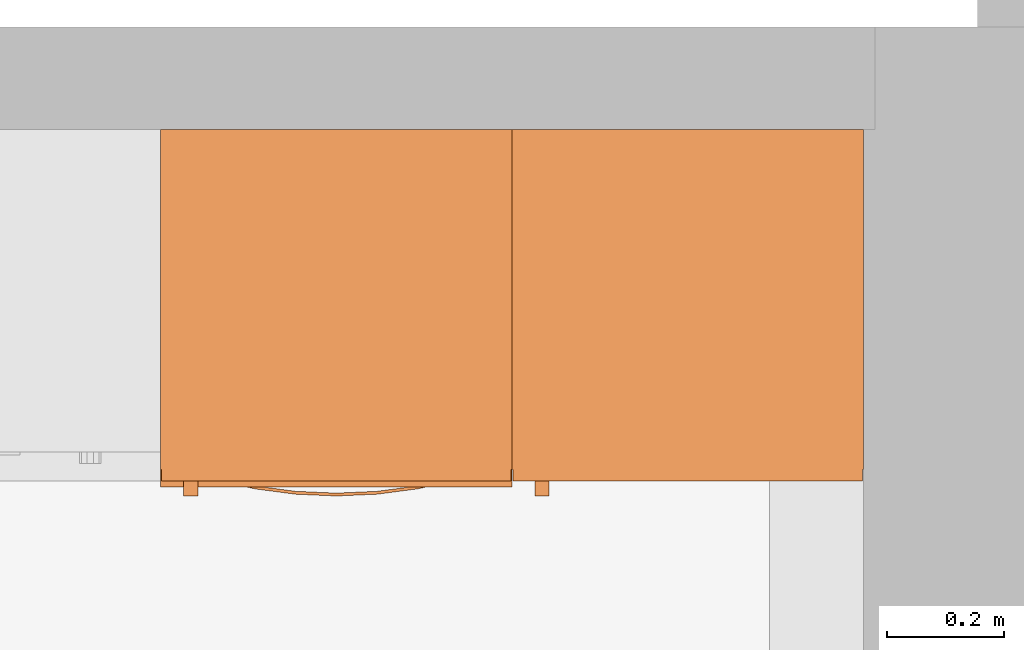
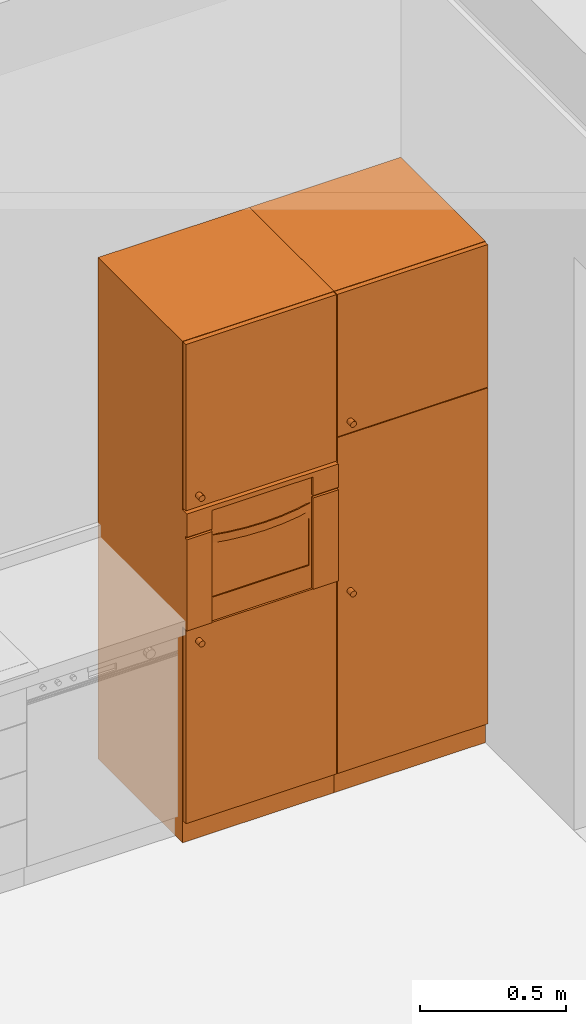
# One storey, part 25 of 28: 2 proxies.
"""IFC4 building model written with IfcOpenShell, lengths in metres."""

import ifcopenshell
import ifcopenshell.guid

model = None  # the IFC model being written
_history = None  # IfcOwnerHistory: only IFC2X3 demands one
_inside = {}  # id of a spatial element -> (the spatial element, [elements in it])
_under = {}  # id of a project, library or spatial element -> (it, [spatial elements below it])
_declared = {}  # id of a project -> (the project, [libraries it declares])
_typed = {}  # id of a type object -> (the type object, [elements of that type])
_made_of = {}  # id of a material, layer set ... -> (it, [elements and type objects made of it])


def new_model(schema):
    """Start an empty IFC model of exactly this schema.

    Asked for "IFC4X3", IfcOpenShell would pick the latest addendum, in which some entities
    have other attributes; the version numbers below select the first issue.
    IFC2X3 requires an IfcOwnerHistory on every rooted entity: one is made here for all.
    """
    global model, _history
    if schema == "IFC4X3":
        model = ifcopenshell.file(schema_version=(4, 3, 0, 0))
    else:
        model = ifcopenshell.file(schema=schema)
    _inside.clear()
    _under.clear()
    _declared.clear()
    _typed.clear()
    _made_of.clear()
    _history = None
    if model.schema == "IFC2X3":
        org = make("IfcOrganization", Name="unknown")
        user = make(
            "IfcPersonAndOrganization",
            ThePerson=make("IfcPerson", FamilyName="unknown"),
            TheOrganization=org,
        )
        app = make(
            "IfcApplication",
            ApplicationDeveloper=org,
            Version="unknown",
            ApplicationFullName="unknown",
            ApplicationIdentifier="unknown",
        )
        _history = make(
            "IfcOwnerHistory",
            OwningUser=user,
            OwningApplication=app,
            ChangeAction="ADDED",
            CreationDate=0,
        )
    return model


def make(cls, **values):
    """One entity of the class cls with the attributes given. An attribute that is None is left unset."""
    return model.create_entity(
        cls, **{name: value for name, value in values.items() if value is not None}
    )


def entity(cls, *values):
    """Any entity or typed value of the class cls, its attributes in the order of the schema. None: left unset."""
    e = model.create_entity(cls)
    for i, value in enumerate(values):
        if value is not None:
            e[i] = value
    return e


def rooted(cls, **values):
    """An entity with a GlobalId (a new one), such as an element, a storey or a relation."""
    return make(cls, GlobalId=ifcopenshell.guid.new(), OwnerHistory=_history, **values)


def si_unit(unit_type, name, prefix=None):
    """IfcSIUnit, for example si_unit("LENGTHUNIT", "METRE", prefix="MILLI")."""
    return make("IfcSIUnit", UnitType=unit_type, Prefix=prefix, Name=name)


def converted_unit(unit_type, name, factor, base, dimensions=None, offset=None):
    """IfcConversionBasedUnit, such as the inch: factor (a typed value) times the base unit."""
    return make(
        "IfcConversionBasedUnit"
        if offset is None
        else "IfcConversionBasedUnitWithOffset",
        ConversionOffset=offset,
        Dimensions=None
        if dimensions is None
        else entity("IfcDimensionalExponents", *dimensions),
        UnitType=unit_type,
        Name=name,
        ConversionFactor=make(
            "IfcMeasureWithUnit", ValueComponent=factor, UnitComponent=base
        ),
    )


def derived_unit(unit_type, elements):
    """IfcDerivedUnit: a product of units, each with its exponent."""
    return make(
        "IfcDerivedUnit",
        Elements=[
            make("IfcDerivedUnitElement", Unit=unit, Exponent=power)
            for unit, power in elements
        ],
        UnitType=unit_type,
    )


def assignment(units):
    """IfcUnitAssignment: the units of a project."""
    return None if units is None else make("IfcUnitAssignment", Units=units)


def point(xyz):
    """IfcCartesianPoint."""
    return None if xyz is None else make("IfcCartesianPoint", Coordinates=xyz)


def direction(xyz):
    """IfcDirection."""
    return None if xyz is None else make("IfcDirection", DirectionRatios=xyz)


def frame(location, z_axis=None, x_axis=None):
    """IfcAxis2Placement3D, a coordinate frame: its origin and axes. An axis left out is left unset."""
    return make(
        "IfcAxis2Placement3D",
        Location=point(location),
        Axis=direction(z_axis),
        RefDirection=direction(x_axis),
    )


def origin_with_axes():
    """The frame at (0, 0, 0) with the z axis (0, 0, 1) and the x axis (1, 0, 0) written out."""
    return frame((0.0, 0.0, 0.0), z_axis=(0.0, 0.0, 1.0), x_axis=(1.0, 0.0, 0.0))


def place(relative_to, where):
    """IfcLocalPlacement: puts the frame where relative to a parent placement (None: the world)."""
    return make(
        "IfcLocalPlacement", PlacementRelTo=relative_to, RelativePlacement=where
    )


def context(
    kind, dimensions, precision=None, world=None, true_north=None, identifier=None
):
    """IfcGeometricRepresentationContext, for example the 3D "Model" context."""
    return make(
        "IfcGeometricRepresentationContext",
        ContextIdentifier=identifier,
        ContextType=kind,
        CoordinateSpaceDimension=dimensions,
        Precision=precision,
        WorldCoordinateSystem=world,
        TrueNorth=true_north,
    )


def subcontext(parent, identifier, kind, view, scale=None):
    """IfcGeometricRepresentationSubContext, for example "Body" below "Model"."""
    return make(
        "IfcGeometricRepresentationSubContext",
        ContextIdentifier=identifier,
        ContextType=kind,
        ParentContext=parent,
        TargetScale=scale,
        TargetView=view,
    )


def project(units=None, contexts=None):
    """IfcProject with its units and contexts."""
    return rooted(
        "IfcProject",
        Name="project",
        RepresentationContexts=contexts,
        UnitsInContext=assignment(units),
    )


def spatial(cls, under=None, at=None, **own):
    """A site, building, storey or space (cls), placed at a placement, below another one or the project."""
    s = rooted(cls, ObjectPlacement=at, **own)
    if under is not None:
        _under.setdefault(under.id(), (under, []))[1].append(s)
    return s


def point_list(points):
    """IfcCartesianPointList2D or 3D."""
    cls = (
        "IfcCartesianPointList2D" if len(points[0]) == 2 else "IfcCartesianPointList3D"
    )
    return make(cls, CoordList=points)


def triangles(points, corners, closed=None, point_numbers=None):
    """IfcTriangulatedFaceSet: each triangle names its three corners, points numbered from 1."""
    return make(
        "IfcTriangulatedFaceSet",
        Coordinates=point_list(points),
        Closed=closed,
        CoordIndex=corners,
        PnIndex=point_numbers,
    )


def shape(context_of_items, identifier, shape_type, items):
    """IfcShapeRepresentation: the items that make up one representation, for example the "Body"."""
    return make(
        "IfcShapeRepresentation",
        ContextOfItems=context_of_items,
        RepresentationIdentifier=identifier,
        RepresentationType=shape_type,
        Items=items,
    )


def made_of(thing, what):
    """Note that an element or type object is made of a material, layer set ...; save() writes the relation."""
    if what is not None:
        _made_of.setdefault(what.id(), (what, []))[1].append(thing)
    return thing


def type_object(cls, material=None, **own):
    """A type object (cls), such as IfcWallType, which elements share."""
    return made_of(rooted(cls, **own), material)


def element(
    cls,
    number,
    at=None,
    inside=None,
    cuts=None,
    type_object=None,
    material=None,
    context=None,
    identifier="Body",
    shape_type=None,
    held_by="IfcProductDefinitionShape",
    body=None,
    shapes=None,
    **own,
):
    """One element of the class cls, such as IfcWall. Its Tag is "e" and its number.

    at: its placement. inside: the storey or other place that contains it. cuts: it is an
    opening in that element (IfcRelVoidsElement). A single representation is given by context,
    identifier, shape_type and body (its items); several are given by shapes. held_by: the class
    of the entity that holds the representations. save() writes the other relations.
    """
    e = rooted(cls, Tag="e%d" % number, ObjectPlacement=at, **own)
    if body is not None:
        shapes = [shape(context, identifier, shape_type, body)]
    if shapes is not None:
        e.Representation = make(held_by, Representations=shapes)
    if inside is not None:
        _inside.setdefault(inside.id(), (inside, []))[1].append(e)
    if cuts is not None:
        rooted(
            "IfcRelVoidsElement", RelatingBuildingElement=cuts, RelatedOpeningElement=e
        )
    if type_object is not None:
        _typed.setdefault(type_object.id(), (type_object, []))[1].append(e)
    return made_of(e, material)


def aggregate(whole, parts):
    """IfcRelAggregates: a whole, such as a stair, and the parts it consists of."""
    return rooted("IfcRelAggregates", RelatingObject=whole, RelatedObjects=parts)


def save(model, path):
    """Write the relations noted so far, then the file.

    IfcRelAggregates (storeys below a building ...), IfcRelContainedInSpatialStructure (elements
    in a storey), IfcRelDefinesByType, IfcRelAssociatesMaterial and IfcRelDeclares: one each for
    every whole, place, type object, material and project.
    """
    for whole, parts in _under.values():
        aggregate(whole, parts)
    for where, things in _inside.values():
        rooted(
            "IfcRelContainedInSpatialStructure",
            RelatedElements=things,
            RelatingStructure=where,
        )
    for kind, things in _typed.values():
        rooted("IfcRelDefinesByType", RelatedObjects=things, RelatingType=kind)
    for what, things in _made_of.values():
        rooted("IfcRelAssociatesMaterial", RelatedObjects=things, RelatingMaterial=what)
    for by, libraries in _declared.values():
        rooted("IfcRelDeclares", RelatingContext=by, RelatedDefinitions=libraries)
    model.write(path)


model = new_model("IFC4")

# Units and contexts
model_context = context("Model", 3, precision=1e-05, world=origin_with_axes(), true_north=direction((-0.526213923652, 0.850352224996)))
body_context = subcontext(model_context, "Body", "Model", "MODEL_VIEW")
ifc_project = project(units=[si_unit("LENGTHUNIT", "METRE"), si_unit("AREAUNIT", "SQUARE_METRE"), si_unit("VOLUMEUNIT", "CUBIC_METRE"), converted_unit("PLANEANGLEUNIT", "DEGREE", entity("IfcPlaneAngleMeasure", 0.0174532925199), si_unit("PLANEANGLEUNIT", "RADIAN"), dimensions=[0, 0, 0, 0, 0, 0, 0]), si_unit("SOLIDANGLEUNIT", "STERADIAN"), converted_unit("TIMEUNIT", "Year", entity("IfcTimeMeasure", 31556926.0), si_unit("TIMEUNIT", "SECOND"), dimensions=[0, 0, 1, 0, 0, 0, 0]), si_unit("MASSUNIT", "GRAM", prefix="KILO"), si_unit("THERMODYNAMICTEMPERATUREUNIT", "DEGREE_CELSIUS"), si_unit("LUMINOUSINTENSITYUNIT", "LUMEN"), si_unit("ENERGYUNIT", "JOULE", prefix="MEGA"), derived_unit("THERMALCONDUCTANCEUNIT", [(si_unit("POWERUNIT", "WATT"), 1), (si_unit("LENGTHUNIT", "METRE"), -1), (si_unit("THERMODYNAMICTEMPERATUREUNIT", "KELVIN"), -1)]), derived_unit("SPECIFICHEATCAPACITYUNIT", [(si_unit("ENERGYUNIT", "JOULE"), 1), (si_unit("MASSUNIT", "GRAM", prefix="KILO"), -1), (si_unit("THERMODYNAMICTEMPERATUREUNIT", "KELVIN"), -1)]), derived_unit("MASSDENSITYUNIT", [(si_unit("MASSUNIT", "GRAM", prefix="KILO"), 1), (si_unit("VOLUMEUNIT", "CUBIC_METRE"), -1)])], contexts=[model_context])

# Site, building, storey, space
site_placement = place(None, origin_with_axes())
site = spatial("IfcSite", under=ifc_project, at=site_placement, Name="Gelände", CompositionType="ELEMENT")
building_placement = place(site_placement, origin_with_axes())
building = spatial("IfcBuilding", under=site, at=building_placement, Name="Haus vom Nikolaus", CompositionType="ELEMENT")
storey_placement = place(building_placement, origin_with_axes())
storey = spatial("IfcBuildingStorey", under=building, at=storey_placement, Name="EG", CompositionType="ELEMENT", Elevation=0.0)
space_placement = place(storey_placement, frame((-3.09538684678, 5.36483190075, 0.0), z_axis=(0.0, 0.0, 1.0), x_axis=(1.0, 0.0, 0.0)))
space = spatial("IfcSpace", under=storey, at=space_placement, Name="EG", CompositionType="ELEMENT")

# Proxies
building_element_proxy_type_1 = type_object("IfcBuildingElementProxyType", Name="Hochschrank Einzeltür 22", PredefinedType="NOTDEFINED")
proxy_1_placement = place(space_placement, frame((14.1603844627, 1.27500017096, 0.2), z_axis=(0.0, 0.0, 1.0), x_axis=(1.0, 0.0, 0.0)))
element("IfcBuildingElementProxy", 1, at=proxy_1_placement, inside=space, type_object=building_element_proxy_type_1, Name="Küche-009", PredefinedType="NOTDEFINED", context=body_context, shape_type="Tessellation", body=[
    triangles([(-0.58, 0.02, 1.51), (-0.02, 0.02, 1.49), (-0.02, 0.02, 1.51), (-0.58, 0.02, 1.49), (-0.02, 0.58, 1.49), (-0.02, 0.58, 1.51), (-0.58, 0.58, 1.51), (-0.58, 0.58, 1.49)], [[1, 2, 3], [1, 4, 2], [3, 5, 6], [3, 2, 5], [7, 3, 6], [7, 1, 3], [7, 4, 1], [7, 8, 4], [8, 2, 4], [8, 5, 2], [6, 8, 7], [6, 5, 8]], closed=True),
    triangles([(-0.6, 0.02, 0.09), (0.0, 0.02, 0.0), (0.0, 0.02, 0.09), (-0.6, 0.02, 0.0), (0.0, 0.6, 0.0), (0.0, 0.6, 0.09), (-0.6, 0.6, 0.09), (-0.6, 0.6, 0.0)], [[1, 2, 3], [1, 4, 2], [3, 5, 6], [3, 2, 5], [7, 3, 6], [7, 1, 3], [7, 4, 1], [7, 8, 4], [8, 2, 4], [8, 5, 2], [6, 8, 7], [6, 5, 8]], closed=True),
    triangles([(-0.02, 0.02, 2.1), (0.0, 0.02, 2.08), (0.0, 0.02, 2.1), (-0.02, 0.02, 2.08), (0.0, 0.6, 2.08), (0.0, 0.6, 2.1), (-0.02, 0.6, 2.1), (-0.58, 0.02, 2.1), (-0.58, 0.6, 2.1), (-0.6, 0.02, 2.1), (-0.6, 0.6, 2.1), (-0.58, 0.02, 2.08), (-0.02, 0.6, 2.08), (-0.58, 0.6, 2.08), (-0.6, 0.6, 2.08), (-0.6, 0.02, 2.08)], [[1, 2, 3], [1, 4, 2], [3, 5, 6], [3, 2, 5], [1, 3, 7], [8, 7, 9], [7, 3, 6], [10, 9, 11], [8, 9, 10], [1, 7, 8], [8, 4, 1], [8, 12, 4], [5, 2, 13], [14, 12, 15], [12, 14, 4], [15, 12, 16], [4, 13, 2], [13, 4, 14], [6, 13, 7], [6, 5, 13], [7, 14, 9], [7, 13, 14], [9, 15, 11], [9, 14, 15], [11, 16, 10], [11, 15, 16], [10, 12, 8], [10, 16, 12]], closed=True),
    triangles([(-0.02, 0.02, 0.11), (0.0, 0.02, 0.09), (0.0, 0.02, 0.11), (-0.02, 0.02, 0.09), (0.0, 0.6, 0.09), (0.0, 0.6, 0.11), (-0.02, 0.6, 0.11), (-0.58, 0.02, 0.11), (-0.58, 0.6, 0.11), (-0.6, 0.02, 0.11), (-0.6, 0.6, 0.11), (-0.58, 0.02, 0.09), (-0.02, 0.6, 0.09), (-0.58, 0.6, 0.09), (-0.6, 0.6, 0.09), (-0.6, 0.02, 0.09)], [[1, 2, 3], [1, 4, 2], [3, 5, 6], [3, 2, 5], [1, 3, 7], [8, 7, 9], [7, 3, 6], [10, 9, 11], [8, 9, 10], [1, 7, 8], [8, 4, 1], [8, 12, 4], [5, 2, 13], [14, 12, 15], [12, 14, 4], [15, 12, 16], [4, 13, 2], [13, 4, 14], [6, 13, 7], [6, 5, 13], [7, 14, 9], [7, 13, 14], [9, 15, 11], [9, 14, 15], [11, 16, 10], [11, 15, 16], [10, 12, 8], [10, 16, 12]], closed=True),
    triangles([(-0.02, 0.02, 2.08), (0.0, 0.02, 0.11), (0.0, 0.02, 2.08), (-0.02, 0.02, 0.11), (0.0, 0.6, 0.11), (0.0, 0.6, 2.08), (-0.02, 0.58, 2.08), (-0.58, 0.58, 2.08), (-0.6, 0.02, 2.08), (-0.58, 0.02, 2.08), (-0.6, 0.6, 2.08), (-0.02, 0.58, 0.11), (-0.6, 0.6, 0.11), (-0.58, 0.58, 0.11), (-0.6, 0.02, 0.11), (-0.58, 0.02, 0.11)], [[1, 2, 3], [1, 4, 2], [3, 5, 6], [3, 2, 5], [1, 3, 7], [8, 9, 10], [8, 6, 11], [9, 8, 11], [7, 3, 6], [8, 7, 6], [7, 4, 1], [7, 12, 4], [5, 2, 12], [13, 5, 12], [12, 2, 4], [13, 12, 14], [15, 13, 14], [15, 14, 16], [6, 13, 11], [6, 5, 13], [11, 15, 9], [11, 13, 15], [9, 16, 10], [9, 15, 16], [10, 14, 8], [10, 16, 14], [8, 12, 7], [8, 14, 12]], closed=True),
    triangles([(-0.58, 0.58, 0.566666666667), (-0.58, 0.02, 0.546666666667), (-0.58, 0.02, 0.566666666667), (-0.58, 0.58, 0.546666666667), (-0.02, 0.02, 0.546666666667), (-0.02, 0.02, 0.566666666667), (-0.02, 0.58, 0.566666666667), (-0.02, 0.58, 0.546666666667)], [[1, 2, 3], [1, 4, 2], [3, 5, 6], [3, 2, 5], [7, 3, 6], [7, 1, 3], [7, 4, 1], [7, 8, 4], [8, 2, 4], [8, 5, 2], [6, 8, 7], [6, 5, 8]], closed=True),
    triangles([(-0.58, 0.58, 1.04333333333), (-0.58, 0.02, 1.02333333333), (-0.58, 0.02, 1.04333333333), (-0.58, 0.58, 1.02333333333), (-0.02, 0.02, 1.02333333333), (-0.02, 0.02, 1.04333333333), (-0.02, 0.58, 1.04333333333), (-0.02, 0.58, 1.02333333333)], [[1, 2, 3], [1, 4, 2], [3, 5, 6], [3, 2, 5], [7, 3, 6], [7, 1, 3], [7, 4, 1], [7, 8, 4], [8, 2, 4], [8, 5, 2], [6, 8, 7], [6, 5, 8]], closed=True),
    triangles([(-0.5985, 0.0, 0.0915), (-0.0015, 0.02, 0.0915), (-0.0015, 0.0, 0.0915), (-0.5985, 0.02, 0.0915), (-0.0015, 0.02, 1.4985), (-0.0015, 0.0, 1.4985), (-0.5985, 0.0, 1.4985), (-0.5985, 0.02, 1.4985)], [[1, 2, 3], [1, 4, 2], [3, 5, 6], [3, 2, 5], [7, 3, 6], [7, 1, 3], [7, 4, 1], [7, 8, 4], [8, 2, 4], [8, 5, 2], [6, 8, 7], [6, 5, 8]], closed=True),
    triangles([(-0.538107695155, 0.0, 0.8475), (-0.5425, 0.0, 0.851892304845), (-0.540014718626, 0.0, 0.849985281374), (-0.556985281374, 0.0, 0.833014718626), (-0.551605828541, 0.0, 0.829908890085), (-0.5545, 0.0, 0.831107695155), (-0.556985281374, 0.0, 0.849985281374), (-0.560091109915, 0.0, 0.844605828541), (-0.558892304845, 0.0, 0.8475), (-0.5485, 0.0, 0.8535), (-0.551605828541, 0.0, 0.853091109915), (-0.5545, 0.0, 0.851892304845), (-0.545394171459, 0.0, 0.853091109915), (-0.536908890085, 0.0, 0.838394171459), (-0.5365, 0.0, 0.8415), (-0.536908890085, 0.0, 0.844605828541), (-0.540014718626, 0.0, 0.833014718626), (-0.538107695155, 0.0, 0.8355), (-0.5485, 0.0, 0.8295), (-0.5425, 0.0, 0.831107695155), (-0.545394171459, 0.0, 0.829908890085), (-0.5605, 0.0, 0.8415), (-0.560091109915, 0.0, 0.838394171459), (-0.558892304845, 0.0, 0.8355), (-0.560091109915, -0.025, 0.838394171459), (-0.5605, -0.025, 0.8415), (-0.560091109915, -0.025, 0.844605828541), (-0.558892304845, -0.025, 0.8475), (-0.556985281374, -0.025, 0.849985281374), (-0.5545, -0.025, 0.851892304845), (-0.551605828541, -0.025, 0.853091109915), (-0.5485, -0.025, 0.8535), (-0.545394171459, -0.025, 0.853091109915), (-0.5425, -0.025, 0.851892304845), (-0.540014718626, -0.025, 0.849985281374), (-0.538107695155, -0.025, 0.8475), (-0.536908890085, -0.025, 0.844605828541), (-0.5365, -0.025, 0.8415), (-0.536908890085, -0.025, 0.838394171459), (-0.538107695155, -0.025, 0.8355), (-0.540014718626, -0.025, 0.833014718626), (-0.5425, -0.025, 0.831107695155), (-0.545394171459, -0.025, 0.829908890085), (-0.5485, -0.025, 0.8295), (-0.551605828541, -0.025, 0.829908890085), (-0.5545, -0.025, 0.831107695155), (-0.556985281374, -0.025, 0.833014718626), (-0.558892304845, -0.025, 0.8355)], [[1, 2, 3], [4, 5, 6], [7, 8, 9], [10, 7, 11], [11, 7, 12], [13, 7, 10], [14, 13, 15], [2, 15, 13], [16, 2, 1], [15, 2, 16], [17, 13, 14], [5, 4, 17], [17, 4, 13], [17, 14, 18], [5, 17, 19], [19, 20, 21], [13, 4, 7], [20, 19, 17], [7, 4, 8], [8, 4, 22], [22, 4, 23], [24, 23, 4], [22, 25, 26], [25, 22, 23], [27, 22, 26], [27, 8, 22], [28, 8, 27], [28, 9, 8], [29, 9, 28], [29, 7, 9], [30, 7, 29], [30, 12, 7], [31, 12, 30], [31, 11, 12], [32, 11, 31], [32, 10, 11], [33, 10, 32], [33, 13, 10], [34, 13, 33], [34, 2, 13], [35, 2, 34], [35, 3, 2], [36, 3, 35], [36, 1, 3], [37, 1, 36], [37, 16, 1], [38, 16, 37], [38, 15, 16], [39, 15, 38], [39, 14, 15], [40, 14, 39], [40, 18, 14], [41, 18, 40], [41, 17, 18], [42, 17, 41], [42, 20, 17], [43, 20, 42], [43, 21, 20], [44, 21, 43], [44, 19, 21], [45, 19, 44], [45, 5, 19], [46, 5, 45], [46, 6, 5], [47, 6, 46], [47, 4, 6], [48, 4, 47], [48, 24, 4], [25, 24, 48], [25, 23, 24], [35, 41, 38], [45, 47, 46], [26, 48, 47], [44, 47, 45], [41, 44, 43], [41, 43, 42], [44, 41, 47], [40, 38, 41], [35, 37, 36], [38, 40, 39], [37, 35, 38], [41, 35, 47], [33, 35, 34], [32, 35, 33], [29, 35, 32], [29, 32, 31], [35, 29, 47], [29, 31, 30], [26, 29, 27], [27, 29, 28], [29, 26, 47], [48, 26, 25]], closed=True),
    triangles([(-0.5985, 0.0, 1.5015), (-0.0015, 0.02, 1.5015), (-0.0015, 0.0, 1.5015), (-0.5985, 0.02, 1.5015), (-0.0015, 0.02, 2.0985), (-0.0015, 0.0, 2.0985), (-0.5985, 0.0, 2.0985), (-0.5985, 0.02, 2.0985)], [[1, 2, 3], [1, 4, 2], [3, 5, 6], [3, 2, 5], [7, 3, 6], [7, 1, 3], [7, 4, 1], [7, 8, 4], [8, 2, 4], [8, 5, 2], [6, 8, 7], [6, 5, 8]], closed=True),
    triangles([(-0.536908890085, 0.0, 1.55460582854), (-0.540014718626, 0.0, 1.55998528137), (-0.538107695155, 0.0, 1.5575), (-0.551605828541, 0.0, 1.56309110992), (-0.558892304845, 0.0, 1.5575), (-0.556985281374, 0.0, 1.55998528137), (-0.5545, 0.0, 1.54110769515), (-0.560091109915, 0.0, 1.55460582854), (-0.5545, 0.0, 1.56189230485), (-0.540014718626, 0.0, 1.54301471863), (-0.538107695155, 0.0, 1.5455), (-0.545394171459, 0.0, 1.56309110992), (-0.5485, 0.0, 1.5635), (-0.5365, 0.0, 1.5515), (-0.5425, 0.0, 1.56189230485), (-0.5485, 0.0, 1.5395), (-0.536908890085, 0.0, 1.54839417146), (-0.5425, 0.0, 1.54110769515), (-0.556985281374, 0.0, 1.54301471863), (-0.545394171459, 0.0, 1.53990889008), (-0.551605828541, 0.0, 1.53990889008), (-0.5605, 0.0, 1.5515), (-0.558892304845, 0.0, 1.5455), (-0.560091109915, 0.0, 1.54839417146), (-0.5605, -0.025, 1.5515), (-0.560091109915, -0.025, 1.54839417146), (-0.560091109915, -0.025, 1.55460582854), (-0.558892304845, -0.025, 1.5575), (-0.556985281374, -0.025, 1.55998528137), (-0.5545, -0.025, 1.56189230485), (-0.551605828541, -0.025, 1.56309110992), (-0.5485, -0.025, 1.5635), (-0.545394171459, -0.025, 1.56309110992), (-0.5425, -0.025, 1.56189230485), (-0.540014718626, -0.025, 1.55998528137), (-0.538107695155, -0.025, 1.5575), (-0.536908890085, -0.025, 1.55460582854), (-0.5365, -0.025, 1.5515), (-0.536908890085, -0.025, 1.54839417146), (-0.538107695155, -0.025, 1.5455), (-0.540014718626, -0.025, 1.54301471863), (-0.5425, -0.025, 1.54110769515), (-0.545394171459, -0.025, 1.53990889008), (-0.5485, -0.025, 1.5395), (-0.551605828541, -0.025, 1.53990889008), (-0.5545, -0.025, 1.54110769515), (-0.556985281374, -0.025, 1.54301471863), (-0.558892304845, -0.025, 1.5455)], [[1, 2, 3], [4, 5, 6], [4, 7, 8], [4, 6, 9], [5, 4, 8], [10, 7, 11], [12, 4, 13], [11, 1, 14], [2, 1, 12], [2, 12, 15], [1, 11, 12], [7, 10, 16], [11, 14, 17], [11, 7, 12], [12, 7, 4], [16, 10, 18], [19, 8, 7], [16, 18, 20], [7, 16, 21], [8, 19, 22], [23, 22, 19], [22, 23, 24], [25, 24, 26], [25, 22, 24], [27, 22, 25], [27, 8, 22], [28, 8, 27], [28, 5, 8], [29, 5, 28], [29, 6, 5], [30, 6, 29], [30, 9, 6], [31, 9, 30], [31, 4, 9], [32, 4, 31], [32, 13, 4], [33, 13, 32], [33, 12, 13], [34, 12, 33], [34, 15, 12], [35, 15, 34], [35, 2, 15], [36, 2, 35], [36, 3, 2], [37, 3, 36], [37, 1, 3], [38, 1, 37], [38, 14, 1], [39, 14, 38], [39, 17, 14], [40, 17, 39], [40, 11, 17], [41, 11, 40], [41, 10, 11], [42, 10, 41], [42, 18, 10], [43, 18, 42], [43, 20, 18], [44, 20, 43], [44, 16, 20], [45, 16, 44], [45, 21, 16], [46, 21, 45], [46, 7, 21], [47, 7, 46], [47, 19, 7], [48, 19, 47], [48, 23, 19], [26, 23, 48], [26, 24, 23], [38, 40, 39], [45, 47, 46], [47, 26, 48], [47, 45, 26], [43, 45, 44], [41, 43, 42], [43, 41, 45], [45, 41, 26], [36, 38, 37], [31, 40, 32], [38, 36, 40], [32, 36, 35], [36, 32, 40], [32, 34, 33], [34, 32, 35], [40, 31, 41], [27, 31, 30], [27, 41, 31], [27, 30, 29], [27, 29, 28], [25, 41, 27], [41, 25, 26]], closed=True),
])
building_element_proxy_type_2 = type_object("IfcBuildingElementProxyType", Name="Hochschrank Einzeltür mit Backofen 22", PredefinedType="NOTDEFINED")
proxy_2_placement = place(space_placement, frame((13.5603844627, 1.27500017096, 0.2), z_axis=(0.0, 0.0, 1.0), x_axis=(1.0, 0.0, 0.0)))
element("IfcBuildingElementProxy", 2, at=proxy_2_placement, inside=space, type_object=building_element_proxy_type_2, Name="Küche-008", PredefinedType="NOTDEFINED", context=body_context, shape_type="Tessellation", body=[
    triangles([(-0.58, 0.02, 1.41), (-0.02, 0.02, 1.39), (-0.02, 0.02, 1.41), (-0.58, 0.02, 1.39), (-0.02, 0.58, 1.39), (-0.02, 0.58, 1.41), (-0.58, 0.58, 1.41), (-0.58, 0.58, 1.39)], [[1, 2, 3], [1, 4, 2], [3, 5, 6], [3, 2, 5], [7, 3, 6], [7, 1, 3], [7, 4, 1], [7, 8, 4], [8, 2, 4], [8, 5, 2], [6, 8, 7], [6, 5, 8]], closed=True),
    triangles([(-0.58, 0.02, 0.91), (-0.02, 0.02, 0.89), (-0.02, 0.02, 0.91), (-0.58, 0.02, 0.89), (-0.02, 0.58, 0.89), (-0.02, 0.58, 0.91), (-0.58, 0.58, 0.91), (-0.58, 0.58, 0.89)], [[1, 2, 3], [1, 4, 2], [3, 5, 6], [3, 2, 5], [7, 3, 6], [7, 1, 3], [7, 4, 1], [7, 8, 4], [8, 2, 4], [8, 5, 2], [6, 8, 7], [6, 5, 8]], closed=True),
    triangles([(-0.6, 0.02, 0.09), (0.0, 0.02, 0.0), (0.0, 0.02, 0.09), (-0.6, 0.02, 0.0), (0.0, 0.6, 0.0), (0.0, 0.6, 0.09), (-0.6, 0.6, 0.09), (-0.6, 0.6, 0.0)], [[1, 2, 3], [1, 4, 2], [3, 5, 6], [3, 2, 5], [7, 3, 6], [7, 1, 3], [7, 4, 1], [7, 8, 4], [8, 2, 4], [8, 5, 2], [6, 8, 7], [6, 5, 8]], closed=True),
    triangles([(-0.02, 0.02, 2.1), (0.0, 0.02, 2.08), (0.0, 0.02, 2.1), (-0.02, 0.02, 2.08), (0.0, 0.6, 2.08), (0.0, 0.6, 2.1), (-0.02, 0.6, 2.1), (-0.58, 0.02, 2.1), (-0.58, 0.6, 2.1), (-0.6, 0.02, 2.1), (-0.6, 0.6, 2.1), (-0.58, 0.02, 2.08), (-0.02, 0.6, 2.08), (-0.58, 0.6, 2.08), (-0.6, 0.6, 2.08), (-0.6, 0.02, 2.08)], [[1, 2, 3], [1, 4, 2], [3, 5, 6], [3, 2, 5], [1, 3, 7], [8, 7, 9], [7, 3, 6], [10, 9, 11], [8, 9, 10], [1, 7, 8], [8, 4, 1], [8, 12, 4], [5, 2, 13], [14, 12, 15], [12, 14, 4], [15, 12, 16], [4, 13, 2], [13, 4, 14], [6, 13, 7], [6, 5, 13], [7, 14, 9], [7, 13, 14], [9, 15, 11], [9, 14, 15], [11, 16, 10], [11, 15, 16], [10, 12, 8], [10, 16, 12]], closed=True),
    triangles([(-0.02, 0.02, 0.11), (0.0, 0.02, 0.09), (0.0, 0.02, 0.11), (-0.02, 0.02, 0.09), (0.0, 0.6, 0.09), (0.0, 0.6, 0.11), (-0.02, 0.6, 0.11), (-0.58, 0.02, 0.11), (-0.58, 0.6, 0.11), (-0.6, 0.02, 0.11), (-0.6, 0.6, 0.11), (-0.58, 0.02, 0.09), (-0.02, 0.6, 0.09), (-0.58, 0.6, 0.09), (-0.6, 0.6, 0.09), (-0.6, 0.02, 0.09)], [[1, 2, 3], [1, 4, 2], [3, 5, 6], [3, 2, 5], [1, 3, 7], [8, 7, 9], [7, 3, 6], [10, 9, 11], [8, 9, 10], [1, 7, 8], [8, 4, 1], [8, 12, 4], [5, 2, 13], [14, 12, 15], [12, 14, 4], [15, 12, 16], [4, 13, 2], [13, 4, 14], [6, 13, 7], [6, 5, 13], [7, 14, 9], [7, 13, 14], [9, 15, 11], [9, 14, 15], [11, 16, 10], [11, 15, 16], [10, 12, 8], [10, 16, 12]], closed=True),
    triangles([(-0.02, 0.02, 2.08), (0.0, 0.02, 0.11), (0.0, 0.02, 2.08), (-0.02, 0.02, 0.11), (0.0, 0.6, 0.11), (0.0, 0.6, 2.08), (-0.02, 0.58, 2.08), (-0.58, 0.58, 2.08), (-0.6, 0.02, 2.08), (-0.58, 0.02, 2.08), (-0.6, 0.6, 2.08), (-0.02, 0.58, 0.11), (-0.6, 0.6, 0.11), (-0.58, 0.58, 0.11), (-0.6, 0.02, 0.11), (-0.58, 0.02, 0.11)], [[1, 2, 3], [1, 4, 2], [3, 5, 6], [3, 2, 5], [1, 3, 7], [8, 9, 10], [8, 6, 11], [9, 8, 11], [7, 3, 6], [8, 7, 6], [7, 4, 1], [7, 12, 4], [5, 2, 12], [13, 5, 12], [12, 2, 4], [13, 12, 14], [15, 13, 14], [15, 14, 16], [6, 13, 11], [6, 5, 13], [11, 15, 9], [11, 13, 15], [9, 16, 10], [9, 15, 16], [10, 14, 8], [10, 16, 14], [8, 12, 7], [8, 14, 12]], closed=True),
    triangles([(-0.58, 0.58, 0.366666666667), (-0.58, 0.02, 0.346666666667), (-0.58, 0.02, 0.366666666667), (-0.58, 0.58, 0.346666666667), (-0.02, 0.02, 0.346666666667), (-0.02, 0.02, 0.366666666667), (-0.02, 0.58, 0.366666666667), (-0.02, 0.58, 0.346666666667)], [[1, 2, 3], [1, 4, 2], [3, 5, 6], [3, 2, 5], [7, 3, 6], [7, 1, 3], [7, 4, 1], [7, 8, 4], [8, 2, 4], [8, 5, 2], [6, 8, 7], [6, 5, 8]], closed=True),
    triangles([(-0.58, 0.58, 0.643333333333), (-0.58, 0.02, 0.623333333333), (-0.58, 0.02, 0.643333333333), (-0.58, 0.58, 0.623333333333), (-0.02, 0.02, 0.623333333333), (-0.02, 0.02, 0.643333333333), (-0.02, 0.58, 0.643333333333), (-0.02, 0.58, 0.623333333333)], [[1, 2, 3], [1, 4, 2], [3, 5, 6], [3, 2, 5], [7, 3, 6], [7, 1, 3], [7, 4, 1], [7, 8, 4], [8, 2, 4], [8, 5, 2], [6, 8, 7], [6, 5, 8]], closed=True),
    triangles([(-0.5985, 0.0, 0.0915), (-0.0015, 0.02, 0.0915), (-0.0015, 0.0, 0.0915), (-0.5985, 0.02, 0.0915), (-0.0015, 0.02, 0.8985), (-0.0015, 0.0, 0.8985), (-0.5985, 0.0, 0.8985), (-0.5985, 0.02, 0.8985)], [[1, 2, 3], [1, 4, 2], [3, 5, 6], [3, 2, 5], [7, 3, 6], [7, 1, 3], [7, 4, 1], [7, 8, 4], [8, 2, 4], [8, 5, 2], [6, 8, 7], [6, 5, 8]], closed=True),
    triangles([(-0.538107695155, 0.0, 0.8475), (-0.5425, 0.0, 0.851892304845), (-0.540014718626, 0.0, 0.849985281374), (-0.556985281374, 0.0, 0.833014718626), (-0.551605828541, 0.0, 0.829908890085), (-0.5545, 0.0, 0.831107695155), (-0.556985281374, 0.0, 0.849985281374), (-0.560091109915, 0.0, 0.844605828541), (-0.558892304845, 0.0, 0.8475), (-0.5485, 0.0, 0.8535), (-0.551605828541, 0.0, 0.853091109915), (-0.5545, 0.0, 0.851892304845), (-0.545394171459, 0.0, 0.853091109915), (-0.536908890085, 0.0, 0.838394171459), (-0.5365, 0.0, 0.8415), (-0.536908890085, 0.0, 0.844605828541), (-0.540014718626, 0.0, 0.833014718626), (-0.538107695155, 0.0, 0.8355), (-0.5485, 0.0, 0.8295), (-0.5425, 0.0, 0.831107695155), (-0.545394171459, 0.0, 0.829908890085), (-0.5605, 0.0, 0.8415), (-0.560091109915, 0.0, 0.838394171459), (-0.558892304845, 0.0, 0.8355), (-0.560091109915, -0.025, 0.838394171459), (-0.5605, -0.025, 0.8415), (-0.560091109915, -0.025, 0.844605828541), (-0.558892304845, -0.025, 0.8475), (-0.556985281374, -0.025, 0.849985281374), (-0.5545, -0.025, 0.851892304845), (-0.551605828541, -0.025, 0.853091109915), (-0.5485, -0.025, 0.8535), (-0.545394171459, -0.025, 0.853091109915), (-0.5425, -0.025, 0.851892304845), (-0.540014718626, -0.025, 0.849985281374), (-0.538107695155, -0.025, 0.8475), (-0.536908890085, -0.025, 0.844605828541), (-0.5365, -0.025, 0.8415), (-0.536908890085, -0.025, 0.838394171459), (-0.538107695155, -0.025, 0.8355), (-0.540014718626, -0.025, 0.833014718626), (-0.5425, -0.025, 0.831107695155), (-0.545394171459, -0.025, 0.829908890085), (-0.5485, -0.025, 0.8295), (-0.551605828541, -0.025, 0.829908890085), (-0.5545, -0.025, 0.831107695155), (-0.556985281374, -0.025, 0.833014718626), (-0.558892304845, -0.025, 0.8355)], [[1, 2, 3], [4, 5, 6], [7, 8, 9], [10, 7, 11], [11, 7, 12], [13, 7, 10], [14, 13, 15], [2, 15, 13], [16, 2, 1], [15, 2, 16], [17, 13, 14], [5, 4, 17], [17, 4, 13], [17, 14, 18], [5, 17, 19], [19, 20, 21], [13, 4, 7], [20, 19, 17], [7, 4, 8], [8, 4, 22], [22, 4, 23], [24, 23, 4], [22, 25, 26], [25, 22, 23], [27, 22, 26], [27, 8, 22], [28, 8, 27], [28, 9, 8], [29, 9, 28], [29, 7, 9], [30, 7, 29], [30, 12, 7], [31, 12, 30], [31, 11, 12], [32, 11, 31], [32, 10, 11], [33, 10, 32], [33, 13, 10], [34, 13, 33], [34, 2, 13], [35, 2, 34], [35, 3, 2], [36, 3, 35], [36, 1, 3], [37, 1, 36], [37, 16, 1], [38, 16, 37], [38, 15, 16], [39, 15, 38], [39, 14, 15], [40, 14, 39], [40, 18, 14], [41, 18, 40], [41, 17, 18], [42, 17, 41], [42, 20, 17], [43, 20, 42], [43, 21, 20], [44, 21, 43], [44, 19, 21], [45, 19, 44], [45, 5, 19], [46, 5, 45], [46, 6, 5], [47, 6, 46], [47, 4, 6], [48, 4, 47], [48, 24, 4], [25, 24, 48], [25, 23, 24], [35, 41, 38], [45, 47, 46], [26, 48, 47], [44, 47, 45], [41, 44, 43], [41, 43, 42], [44, 41, 47], [40, 38, 41], [35, 37, 36], [38, 40, 39], [37, 35, 38], [41, 35, 47], [33, 35, 34], [32, 35, 33], [29, 35, 32], [29, 32, 31], [35, 29, 47], [29, 31, 30], [26, 29, 27], [27, 29, 28], [29, 26, 47], [48, 26, 25]], closed=True),
    triangles([(-0.5985, 0.0, 1.4015), (-0.0015, 0.02, 1.4015), (-0.0015, 0.0, 1.4015), (-0.5985, 0.02, 1.4015), (-0.0015, 0.02, 2.0985), (-0.0015, 0.0, 2.0985), (-0.5985, 0.0, 2.0985), (-0.5985, 0.02, 2.0985)], [[1, 2, 3], [1, 4, 2], [3, 5, 6], [3, 2, 5], [7, 3, 6], [7, 1, 3], [7, 4, 1], [7, 8, 4], [8, 2, 4], [8, 5, 2], [6, 8, 7], [6, 5, 8]], closed=True),
    triangles([(-0.536908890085, 0.0, 1.45460582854), (-0.540014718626, 0.0, 1.45998528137), (-0.538107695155, 0.0, 1.4575), (-0.556985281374, 0.0, 1.45998528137), (-0.5605, 0.0, 1.4515), (-0.558892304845, 0.0, 1.4575), (-0.560091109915, 0.0, 1.45460582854), (-0.5485, 0.0, 1.4635), (-0.551605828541, 0.0, 1.46309110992), (-0.5545, 0.0, 1.46189230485), (-0.5425, 0.0, 1.46189230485), (-0.545394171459, 0.0, 1.46309110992), (-0.538107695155, 0.0, 1.4455), (-0.536908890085, 0.0, 1.44839417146), (-0.5365, 0.0, 1.4515), (-0.5545, 0.0, 1.44110769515), (-0.5485, 0.0, 1.4395), (-0.551605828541, 0.0, 1.43990889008), (-0.540014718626, 0.0, 1.44301471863), (-0.545394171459, 0.0, 1.43990889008), (-0.5425, 0.0, 1.44110769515), (-0.556985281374, 0.0, 1.44301471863), (-0.560091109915, 0.0, 1.44839417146), (-0.558892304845, 0.0, 1.4455), (-0.5605, -0.025, 1.4515), (-0.560091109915, -0.025, 1.44839417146), (-0.560091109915, -0.025, 1.45460582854), (-0.558892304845, -0.025, 1.4575), (-0.556985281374, -0.025, 1.45998528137), (-0.5545, -0.025, 1.46189230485), (-0.551605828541, -0.025, 1.46309110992), (-0.5485, -0.025, 1.4635), (-0.545394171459, -0.025, 1.46309110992), (-0.5425, -0.025, 1.46189230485), (-0.540014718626, -0.025, 1.45998528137), (-0.538107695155, -0.025, 1.4575), (-0.536908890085, -0.025, 1.45460582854), (-0.5365, -0.025, 1.4515), (-0.536908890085, -0.025, 1.44839417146), (-0.538107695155, -0.025, 1.4455), (-0.540014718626, -0.025, 1.44301471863), (-0.5425, -0.025, 1.44110769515), (-0.545394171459, -0.025, 1.43990889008), (-0.5485, -0.025, 1.4395), (-0.551605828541, -0.025, 1.43990889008), (-0.5545, -0.025, 1.44110769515), (-0.556985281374, -0.025, 1.44301471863), (-0.558892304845, -0.025, 1.4455)], [[1, 2, 3], [4, 5, 6], [6, 5, 7], [8, 4, 9], [9, 4, 10], [11, 4, 8], [11, 8, 12], [4, 11, 5], [2, 1, 11], [13, 11, 1], [13, 1, 14], [14, 1, 15], [11, 13, 5], [16, 17, 18], [17, 13, 19], [20, 19, 21], [17, 16, 13], [17, 19, 20], [13, 16, 5], [22, 5, 16], [5, 22, 23], [24, 23, 22], [25, 23, 26], [25, 5, 23], [27, 5, 25], [27, 7, 5], [28, 7, 27], [28, 6, 7], [29, 6, 28], [29, 4, 6], [30, 4, 29], [30, 10, 4], [31, 10, 30], [31, 9, 10], [32, 9, 31], [32, 8, 9], [33, 8, 32], [33, 12, 8], [34, 12, 33], [34, 11, 12], [35, 11, 34], [35, 2, 11], [36, 2, 35], [36, 3, 2], [37, 3, 36], [37, 1, 3], [38, 1, 37], [38, 15, 1], [39, 15, 38], [39, 14, 15], [40, 14, 39], [40, 13, 14], [41, 13, 40], [41, 19, 13], [42, 19, 41], [42, 21, 19], [43, 21, 42], [43, 20, 21], [44, 20, 43], [44, 17, 20], [45, 17, 44], [45, 18, 17], [46, 18, 45], [46, 16, 18], [47, 16, 46], [47, 22, 16], [48, 22, 47], [48, 24, 22], [26, 24, 48], [26, 23, 24], [38, 40, 39], [45, 47, 46], [47, 26, 48], [47, 45, 26], [43, 45, 44], [41, 43, 42], [43, 41, 45], [45, 41, 26], [36, 38, 37], [31, 40, 32], [38, 36, 40], [32, 36, 35], [36, 32, 40], [32, 34, 33], [34, 32, 35], [40, 31, 41], [27, 31, 30], [27, 41, 31], [27, 30, 29], [27, 29, 28], [25, 41, 27], [41, 25, 26]], closed=True),
    triangles([(-0.6, 0.0, 0.905), (0.0, 0.02, 0.905), (0.0, 0.0, 0.905), (-0.6, 0.02, 0.905), (0.0, 0.0, 1.395), (0.0, 0.02, 1.395), (-0.11, 0.0, 1.003), (-0.11, 0.0, 1.199), (-0.6, 0.0, 1.395), (-0.49, 0.0, 1.199), (-0.49, 0.0, 1.003), (-0.6, 0.02, 1.395), (-0.11, 0.02, 1.199), (-0.11, 0.02, 1.003), (-0.49, 0.02, 1.199), (-0.49, 0.02, 1.003)], [[1, 2, 3], [1, 4, 2], [2, 5, 3], [5, 2, 6], [7, 1, 3], [8, 3, 5], [8, 9, 10], [10, 1, 11], [7, 11, 1], [1, 10, 9], [3, 8, 7], [9, 8, 5], [9, 4, 1], [9, 12, 4], [13, 2, 14], [4, 14, 2], [13, 12, 6], [2, 13, 6], [15, 4, 12], [13, 15, 12], [16, 14, 4], [15, 16, 4], [5, 12, 9], [5, 6, 12], [7, 16, 11], [7, 14, 16], [11, 15, 10], [11, 16, 15], [10, 13, 8], [10, 15, 13], [8, 14, 7], [8, 13, 14]], closed=True),
    triangles([(-0.49, 0.005, 1.003), (-0.11, 0.015, 1.003), (-0.11, 0.005, 1.003), (-0.49, 0.015, 1.003), (-0.11, 0.015, 1.199), (-0.11, 0.005, 1.199), (-0.49, 0.005, 1.199), (-0.49, 0.015, 1.199)], [[1, 2, 3], [1, 4, 2], [3, 5, 6], [3, 2, 5], [7, 3, 6], [7, 1, 3], [7, 4, 1], [7, 8, 4], [8, 2, 4], [8, 5, 2], [6, 8, 7], [6, 5, 8]], closed=True),
    triangles([(-0.1, -0.01, 1.287), (0.0, -0.01, 0.905), (0.0, -0.01, 1.287), (-0.1, -0.01, 0.905), (0.0, 0.0, 0.905), (0.0, 0.0, 1.287), (-0.1, 0.0, 1.287), (-0.1, 0.0, 0.905)], [[1, 2, 3], [1, 4, 2], [3, 5, 6], [3, 2, 5], [7, 3, 6], [7, 1, 3], [7, 4, 1], [7, 8, 4], [8, 2, 4], [8, 5, 2], [6, 8, 7], [6, 5, 8]], closed=True),
    triangles([(-0.6, -0.01, 1.287), (-0.5, -0.01, 0.905), (-0.5, -0.01, 1.287), (-0.6, -0.01, 0.905), (-0.5, 0.0, 0.905), (-0.5, 0.0, 1.287), (-0.6, 0.0, 1.287), (-0.6, 0.0, 0.905)], [[1, 2, 3], [1, 4, 2], [3, 5, 6], [3, 2, 5], [7, 3, 6], [7, 1, 3], [7, 4, 1], [7, 8, 4], [8, 2, 4], [8, 5, 2], [6, 8, 7], [6, 5, 8]], closed=True),
    triangles([(-0.1, -0.01, 1.297), (0.0, 0.0, 1.297), (0.0, -0.01, 1.297), (-0.1, 0.0, 1.297), (0.0, 0.0, 1.395), (0.0, -0.01, 1.395), (-0.1, -0.01, 1.3754), (-0.6, -0.01, 1.395), (-0.5, -0.01, 1.3754), (-0.6, -0.01, 1.297), (-0.5, -0.01, 1.297), (-0.1, 0.0, 1.3754), (-0.6, 0.0, 1.395), (-0.5, 0.0, 1.3754), (-0.6, 0.0, 1.297), (-0.5, 0.0, 1.297)], [[1, 2, 3], [1, 4, 2], [3, 5, 6], [3, 2, 5], [1, 3, 7], [6, 8, 9], [9, 10, 11], [6, 9, 7], [10, 9, 8], [7, 3, 6], [7, 4, 1], [7, 12, 4], [13, 5, 12], [12, 2, 4], [13, 12, 14], [15, 13, 14], [15, 14, 16], [12, 5, 2], [6, 13, 8], [6, 5, 13], [8, 15, 10], [8, 13, 15], [10, 16, 11], [10, 15, 16], [16, 9, 11], [9, 16, 14], [9, 12, 7], [9, 14, 12]], closed=True),
    triangles([(-0.161081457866, -0.0132495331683, 1.26433333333), (-0.101316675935, 0.0, 1.23166666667), (-0.101316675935, 0.0, 1.26433333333), (-0.161081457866, -0.0132495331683, 1.23166666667), (-0.124395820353, 0.0, 1.23166666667), (-0.124395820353, 0.0, 1.26433333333), (-0.161949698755, -0.00832549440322, 1.26433333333), (-0.369724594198, -0.0223590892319, 1.26433333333), (-0.369288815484, -0.0173781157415, 1.26433333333), (-0.438918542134, -0.0132495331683, 1.26433333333), (-0.230275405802, -0.0223590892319, 1.26433333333), (-0.230711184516, -0.0173781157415, 1.26433333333), (-0.3, -0.0204033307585, 1.26433333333), (-0.3, -0.0254033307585, 1.26433333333), (-0.475604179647, 0.0, 1.26433333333), (-0.438050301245, -0.00832549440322, 1.26433333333), (-0.498683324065, 0.0, 1.26433333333), (-0.230275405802, -0.0223590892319, 1.23166666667), (-0.475604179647, 0.0, 1.23166666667), (-0.438918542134, -0.0132495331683, 1.23166666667), (-0.498683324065, 0.0, 1.23166666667), (-0.438050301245, -0.00832549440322, 1.23166666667), (-0.230711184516, -0.0173781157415, 1.23166666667), (-0.369288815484, -0.0173781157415, 1.23166666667), (-0.369724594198, -0.0223590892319, 1.23166666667), (-0.3, -0.0204033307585, 1.23166666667), (-0.3, -0.0254033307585, 1.23166666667), (-0.161949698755, -0.00832549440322, 1.23166666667)], [[1, 2, 3], [1, 4, 2], [3, 5, 6], [5, 3, 2], [6, 1, 3], [1, 6, 7], [8, 9, 10], [11, 7, 12], [11, 13, 14], [8, 13, 9], [15, 10, 16], [10, 15, 17], [16, 10, 9], [14, 13, 8], [13, 11, 12], [1, 7, 11], [11, 4, 1], [11, 18, 4], [19, 20, 21], [20, 19, 22], [18, 23, 4], [20, 24, 25], [25, 26, 27], [18, 26, 23], [5, 4, 28], [4, 5, 2], [28, 4, 23], [27, 26, 18], [26, 25, 24], [24, 20, 22], [6, 28, 7], [6, 5, 28], [7, 23, 12], [7, 28, 23], [12, 26, 13], [12, 23, 26], [13, 24, 9], [13, 26, 24], [9, 22, 16], [9, 24, 22], [16, 19, 15], [16, 22, 19], [15, 21, 17], [15, 19, 21], [17, 20, 10], [17, 21, 20], [10, 25, 8], [10, 20, 25], [8, 27, 14], [8, 25, 27], [14, 18, 11], [14, 27, 18]], closed=True),
])

save(model, "model.ifc")
